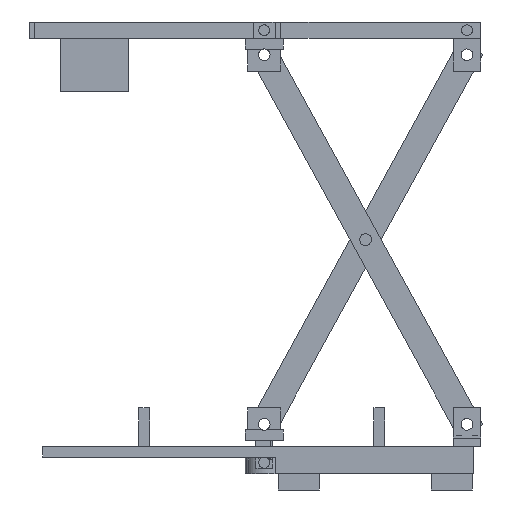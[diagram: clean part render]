
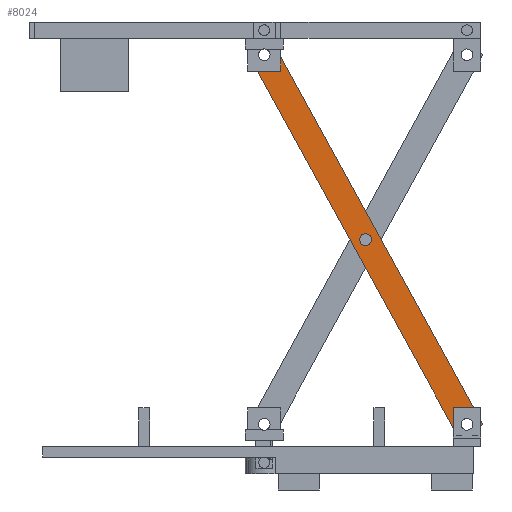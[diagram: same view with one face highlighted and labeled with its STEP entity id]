
A CAD part, front view. The second image highlights one B-rep face of the part: STEP entity #8024.
In plain terms, the highlighted planar face has unit normal (0, -1, 0).
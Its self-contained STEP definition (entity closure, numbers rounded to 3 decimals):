
#7908 = EDGE_CURVE('',#7909,#7911,#7913,.T.);
#7909 = VERTEX_POINT('',#7910);
#7910 = CARTESIAN_POINT('',(-3.,-1.5,-5.));
#7911 = VERTEX_POINT('',#7912);
#7912 = CARTESIAN_POINT('',(-3.,-1.5,5.));
#7913 = SURFACE_CURVE('',#7914,(#7918,#7930),.PCURVE_S1.);
#7914 = LINE('',#7915,#7916);
#7915 = CARTESIAN_POINT('',(-3.,-1.5,-5.));
#7916 = VECTOR('',#7917,1.);
#7917 = DIRECTION('',(0.,0.,1.));
#7918 = PCURVE('',#7919,#7924);
#7919 = PLANE('',#7920);
#7920 = AXIS2_PLACEMENT_3D('',#7921,#7922,#7923);
#7921 = CARTESIAN_POINT('',(-3.,-1.5,-5.));
#7922 = DIRECTION('',(1.,0.,-0.));
#7923 = DIRECTION('',(0.,0.,1.));
#7924 = DEFINITIONAL_REPRESENTATION('',(#7925),#7929);
#7925 = LINE('',#7926,#7927);
#7926 = CARTESIAN_POINT('',(0.,0.));
#7927 = VECTOR('',#7928,1.);
#7928 = DIRECTION('',(1.,0.));
#7929 = ( GEOMETRIC_REPRESENTATION_CONTEXT(2) 
PARAMETRIC_REPRESENTATION_CONTEXT() REPRESENTATION_CONTEXT('2D SPACE',''
  ) );
#7930 = PCURVE('',#7931,#7936);
#7931 = PLANE('',#7932);
#7932 = AXIS2_PLACEMENT_3D('',#7933,#7934,#7935);
#7933 = CARTESIAN_POINT('',(-3.,-1.5,-5.));
#7934 = DIRECTION('',(-0.,1.,0.));
#7935 = DIRECTION('',(0.,0.,1.));
#7936 = DEFINITIONAL_REPRESENTATION('',(#7937),#7941);
#7937 = LINE('',#7938,#7939);
#7938 = CARTESIAN_POINT('',(0.,0.));
#7939 = VECTOR('',#7940,1.);
#7940 = DIRECTION('',(1.,0.));
#7941 = ( GEOMETRIC_REPRESENTATION_CONTEXT(2) 
PARAMETRIC_REPRESENTATION_CONTEXT() REPRESENTATION_CONTEXT('2D SPACE',''
  ) );
#7959 = PLANE('',#7960);
#7960 = AXIS2_PLACEMENT_3D('',#7961,#7962,#7963);
#7961 = CARTESIAN_POINT('',(-3.,-1.5,-5.));
#7962 = DIRECTION('',(0.,0.,1.));
#7963 = DIRECTION('',(1.,0.,-0.));
#8013 = PLANE('',#8014);
#8014 = AXIS2_PLACEMENT_3D('',#8015,#8016,#8017);
#8015 = CARTESIAN_POINT('',(-3.,-1.5,5.));
#8016 = DIRECTION('',(0.,0.,1.));
#8017 = DIRECTION('',(1.,0.,-0.));
#8024 = ADVANCED_FACE('',(#8025,#8100,#8135,#8170),#7931,.F.);
#8025 = FACE_BOUND('',#8026,.F.);
#8026 = EDGE_LOOP('',(#8027,#8050,#8051,#8074));
#8027 = ORIENTED_EDGE('',*,*,#8028,.F.);
#8028 = EDGE_CURVE('',#7909,#8029,#8031,.T.);
#8029 = VERTEX_POINT('',#8030);
#8030 = CARTESIAN_POINT('',(157.,-1.5,-5.));
#8031 = SURFACE_CURVE('',#8032,(#8036,#8043),.PCURVE_S1.);
#8032 = LINE('',#8033,#8034);
#8033 = CARTESIAN_POINT('',(-3.,-1.5,-5.));
#8034 = VECTOR('',#8035,1.);
#8035 = DIRECTION('',(1.,0.,-0.));
#8036 = PCURVE('',#7931,#8037);
#8037 = DEFINITIONAL_REPRESENTATION('',(#8038),#8042);
#8038 = LINE('',#8039,#8040);
#8039 = CARTESIAN_POINT('',(0.,0.));
#8040 = VECTOR('',#8041,1.);
#8041 = DIRECTION('',(0.,1.));
#8042 = ( GEOMETRIC_REPRESENTATION_CONTEXT(2) 
PARAMETRIC_REPRESENTATION_CONTEXT() REPRESENTATION_CONTEXT('2D SPACE',''
  ) );
#8043 = PCURVE('',#7959,#8044);
#8044 = DEFINITIONAL_REPRESENTATION('',(#8045),#8049);
#8045 = LINE('',#8046,#8047);
#8046 = CARTESIAN_POINT('',(0.,0.));
#8047 = VECTOR('',#8048,1.);
#8048 = DIRECTION('',(1.,0.));
#8049 = ( GEOMETRIC_REPRESENTATION_CONTEXT(2) 
PARAMETRIC_REPRESENTATION_CONTEXT() REPRESENTATION_CONTEXT('2D SPACE',''
  ) );
#8050 = ORIENTED_EDGE('',*,*,#7908,.T.);
#8051 = ORIENTED_EDGE('',*,*,#8052,.T.);
#8052 = EDGE_CURVE('',#7911,#8053,#8055,.T.);
#8053 = VERTEX_POINT('',#8054);
#8054 = CARTESIAN_POINT('',(157.,-1.5,5.));
#8055 = SURFACE_CURVE('',#8056,(#8060,#8067),.PCURVE_S1.);
#8056 = LINE('',#8057,#8058);
#8057 = CARTESIAN_POINT('',(-3.,-1.5,5.));
#8058 = VECTOR('',#8059,1.);
#8059 = DIRECTION('',(1.,0.,-0.));
#8060 = PCURVE('',#7931,#8061);
#8061 = DEFINITIONAL_REPRESENTATION('',(#8062),#8066);
#8062 = LINE('',#8063,#8064);
#8063 = CARTESIAN_POINT('',(10.,0.));
#8064 = VECTOR('',#8065,1.);
#8065 = DIRECTION('',(0.,1.));
#8066 = ( GEOMETRIC_REPRESENTATION_CONTEXT(2) 
PARAMETRIC_REPRESENTATION_CONTEXT() REPRESENTATION_CONTEXT('2D SPACE',''
  ) );
#8067 = PCURVE('',#8013,#8068);
#8068 = DEFINITIONAL_REPRESENTATION('',(#8069),#8073);
#8069 = LINE('',#8070,#8071);
#8070 = CARTESIAN_POINT('',(0.,0.));
#8071 = VECTOR('',#8072,1.);
#8072 = DIRECTION('',(1.,0.));
#8073 = ( GEOMETRIC_REPRESENTATION_CONTEXT(2) 
PARAMETRIC_REPRESENTATION_CONTEXT() REPRESENTATION_CONTEXT('2D SPACE',''
  ) );
#8074 = ORIENTED_EDGE('',*,*,#8075,.F.);
#8075 = EDGE_CURVE('',#8029,#8053,#8076,.T.);
#8076 = SURFACE_CURVE('',#8077,(#8081,#8088),.PCURVE_S1.);
#8077 = LINE('',#8078,#8079);
#8078 = CARTESIAN_POINT('',(157.,-1.5,-5.));
#8079 = VECTOR('',#8080,1.);
#8080 = DIRECTION('',(0.,0.,1.));
#8081 = PCURVE('',#7931,#8082);
#8082 = DEFINITIONAL_REPRESENTATION('',(#8083),#8087);
#8083 = LINE('',#8084,#8085);
#8084 = CARTESIAN_POINT('',(0.,160.));
#8085 = VECTOR('',#8086,1.);
#8086 = DIRECTION('',(1.,0.));
#8087 = ( GEOMETRIC_REPRESENTATION_CONTEXT(2) 
PARAMETRIC_REPRESENTATION_CONTEXT() REPRESENTATION_CONTEXT('2D SPACE',''
  ) );
#8088 = PCURVE('',#8089,#8094);
#8089 = PLANE('',#8090);
#8090 = AXIS2_PLACEMENT_3D('',#8091,#8092,#8093);
#8091 = CARTESIAN_POINT('',(157.,-1.5,-5.));
#8092 = DIRECTION('',(1.,0.,-0.));
#8093 = DIRECTION('',(0.,0.,1.));
#8094 = DEFINITIONAL_REPRESENTATION('',(#8095),#8099);
#8095 = LINE('',#8096,#8097);
#8096 = CARTESIAN_POINT('',(0.,0.));
#8097 = VECTOR('',#8098,1.);
#8098 = DIRECTION('',(1.,0.));
#8099 = ( GEOMETRIC_REPRESENTATION_CONTEXT(2) 
PARAMETRIC_REPRESENTATION_CONTEXT() REPRESENTATION_CONTEXT('2D SPACE',''
  ) );
#8100 = FACE_BOUND('',#8101,.F.);
#8101 = EDGE_LOOP('',(#8102));
#8102 = ORIENTED_EDGE('',*,*,#8103,.T.);
#8103 = EDGE_CURVE('',#8104,#8104,#8106,.T.);
#8104 = VERTEX_POINT('',#8105);
#8105 = CARTESIAN_POINT('',(2.15,-1.5,0.));
#8106 = SURFACE_CURVE('',#8107,(#8112,#8123),.PCURVE_S1.);
#8107 = CIRCLE('',#8108,2.15);
#8108 = AXIS2_PLACEMENT_3D('',#8109,#8110,#8111);
#8109 = CARTESIAN_POINT('',(0.,-1.5,0.));
#8110 = DIRECTION('',(0.,-1.,0.));
#8111 = DIRECTION('',(1.,0.,0.));
#8112 = PCURVE('',#7931,#8113);
#8113 = DEFINITIONAL_REPRESENTATION('',(#8114),#8122);
#8114 = ( BOUNDED_CURVE() B_SPLINE_CURVE(2,(#8115,#8116,#8117,#8118,
#8119,#8120,#8121),.UNSPECIFIED.,.T.,.F.) B_SPLINE_CURVE_WITH_KNOTS((1,2
    ,2,2,2,1),(-2.094,0.,2.094,4.189,
6.283,8.378),.UNSPECIFIED.) CURVE() 
GEOMETRIC_REPRESENTATION_ITEM() RATIONAL_B_SPLINE_CURVE((1.,0.5,1.,0.5,
1.,0.5,1.)) REPRESENTATION_ITEM('') );
#8115 = CARTESIAN_POINT('',(5.,5.15));
#8116 = CARTESIAN_POINT('',(8.724,5.15));
#8117 = CARTESIAN_POINT('',(6.862,1.925));
#8118 = CARTESIAN_POINT('',(5.,-1.3));
#8119 = CARTESIAN_POINT('',(3.138,1.925));
#8120 = CARTESIAN_POINT('',(1.276,5.15));
#8121 = CARTESIAN_POINT('',(5.,5.15));
#8122 = ( GEOMETRIC_REPRESENTATION_CONTEXT(2) 
PARAMETRIC_REPRESENTATION_CONTEXT() REPRESENTATION_CONTEXT('2D SPACE',''
  ) );
#8123 = PCURVE('',#8124,#8129);
#8124 = CYLINDRICAL_SURFACE('',#8125,2.15);
#8125 = AXIS2_PLACEMENT_3D('',#8126,#8127,#8128);
#8126 = CARTESIAN_POINT('',(0.,2.5,0.));
#8127 = DIRECTION('',(0.,-1.,0.));
#8128 = DIRECTION('',(1.,0.,0.));
#8129 = DEFINITIONAL_REPRESENTATION('',(#8130),#8134);
#8130 = LINE('',#8131,#8132);
#8131 = CARTESIAN_POINT('',(0.,4.));
#8132 = VECTOR('',#8133,1.);
#8133 = DIRECTION('',(1.,0.));
#8134 = ( GEOMETRIC_REPRESENTATION_CONTEXT(2) 
PARAMETRIC_REPRESENTATION_CONTEXT() REPRESENTATION_CONTEXT('2D SPACE',''
  ) );
#8135 = FACE_BOUND('',#8136,.F.);
#8136 = EDGE_LOOP('',(#8137));
#8137 = ORIENTED_EDGE('',*,*,#8138,.T.);
#8138 = EDGE_CURVE('',#8139,#8139,#8141,.T.);
#8139 = VERTEX_POINT('',#8140);
#8140 = CARTESIAN_POINT('',(79.15,-1.5,0.));
#8141 = SURFACE_CURVE('',#8142,(#8147,#8158),.PCURVE_S1.);
#8142 = CIRCLE('',#8143,2.15);
#8143 = AXIS2_PLACEMENT_3D('',#8144,#8145,#8146);
#8144 = CARTESIAN_POINT('',(77.,-1.5,0.));
#8145 = DIRECTION('',(0.,-1.,0.));
#8146 = DIRECTION('',(1.,0.,0.));
#8147 = PCURVE('',#7931,#8148);
#8148 = DEFINITIONAL_REPRESENTATION('',(#8149),#8157);
#8149 = ( BOUNDED_CURVE() B_SPLINE_CURVE(2,(#8150,#8151,#8152,#8153,
#8154,#8155,#8156),.UNSPECIFIED.,.T.,.F.) B_SPLINE_CURVE_WITH_KNOTS((1,2
    ,2,2,2,1),(-2.094,0.,2.094,4.189,
6.283,8.378),.UNSPECIFIED.) CURVE() 
GEOMETRIC_REPRESENTATION_ITEM() RATIONAL_B_SPLINE_CURVE((1.,0.5,1.,0.5,
1.,0.5,1.)) REPRESENTATION_ITEM('') );
#8150 = CARTESIAN_POINT('',(5.,82.15));
#8151 = CARTESIAN_POINT('',(8.724,82.15));
#8152 = CARTESIAN_POINT('',(6.862,78.925));
#8153 = CARTESIAN_POINT('',(5.,75.7));
#8154 = CARTESIAN_POINT('',(3.138,78.925));
#8155 = CARTESIAN_POINT('',(1.276,82.15));
#8156 = CARTESIAN_POINT('',(5.,82.15));
#8157 = ( GEOMETRIC_REPRESENTATION_CONTEXT(2) 
PARAMETRIC_REPRESENTATION_CONTEXT() REPRESENTATION_CONTEXT('2D SPACE',''
  ) );
#8158 = PCURVE('',#8159,#8164);
#8159 = CYLINDRICAL_SURFACE('',#8160,2.15);
#8160 = AXIS2_PLACEMENT_3D('',#8161,#8162,#8163);
#8161 = CARTESIAN_POINT('',(77.,2.5,0.));
#8162 = DIRECTION('',(0.,-1.,0.));
#8163 = DIRECTION('',(1.,0.,0.));
#8164 = DEFINITIONAL_REPRESENTATION('',(#8165),#8169);
#8165 = LINE('',#8166,#8167);
#8166 = CARTESIAN_POINT('',(0.,4.));
#8167 = VECTOR('',#8168,1.);
#8168 = DIRECTION('',(1.,0.));
#8169 = ( GEOMETRIC_REPRESENTATION_CONTEXT(2) 
PARAMETRIC_REPRESENTATION_CONTEXT() REPRESENTATION_CONTEXT('2D SPACE',''
  ) );
#8170 = FACE_BOUND('',#8171,.F.);
#8171 = EDGE_LOOP('',(#8172));
#8172 = ORIENTED_EDGE('',*,*,#8173,.T.);
#8173 = EDGE_CURVE('',#8174,#8174,#8176,.T.);
#8174 = VERTEX_POINT('',#8175);
#8175 = CARTESIAN_POINT('',(156.15,-1.5,0.));
#8176 = SURFACE_CURVE('',#8177,(#8182,#8193),.PCURVE_S1.);
#8177 = CIRCLE('',#8178,2.15);
#8178 = AXIS2_PLACEMENT_3D('',#8179,#8180,#8181);
#8179 = CARTESIAN_POINT('',(154.,-1.5,0.));
#8180 = DIRECTION('',(0.,-1.,0.));
#8181 = DIRECTION('',(1.,0.,0.));
#8182 = PCURVE('',#7931,#8183);
#8183 = DEFINITIONAL_REPRESENTATION('',(#8184),#8192);
#8184 = ( BOUNDED_CURVE() B_SPLINE_CURVE(2,(#8185,#8186,#8187,#8188,
#8189,#8190,#8191),.UNSPECIFIED.,.T.,.F.) B_SPLINE_CURVE_WITH_KNOTS((1,2
    ,2,2,2,1),(-2.094,0.,2.094,4.189,
6.283,8.378),.UNSPECIFIED.) CURVE() 
GEOMETRIC_REPRESENTATION_ITEM() RATIONAL_B_SPLINE_CURVE((1.,0.5,1.,0.5,
1.,0.5,1.)) REPRESENTATION_ITEM('') );
#8185 = CARTESIAN_POINT('',(5.,159.15));
#8186 = CARTESIAN_POINT('',(8.724,159.15));
#8187 = CARTESIAN_POINT('',(6.862,155.925));
#8188 = CARTESIAN_POINT('',(5.,152.7));
#8189 = CARTESIAN_POINT('',(3.138,155.925));
#8190 = CARTESIAN_POINT('',(1.276,159.15));
#8191 = CARTESIAN_POINT('',(5.,159.15));
#8192 = ( GEOMETRIC_REPRESENTATION_CONTEXT(2) 
PARAMETRIC_REPRESENTATION_CONTEXT() REPRESENTATION_CONTEXT('2D SPACE',''
  ) );
#8193 = PCURVE('',#8194,#8199);
#8194 = CYLINDRICAL_SURFACE('',#8195,2.15);
#8195 = AXIS2_PLACEMENT_3D('',#8196,#8197,#8198);
#8196 = CARTESIAN_POINT('',(154.,2.5,0.));
#8197 = DIRECTION('',(0.,-1.,0.));
#8198 = DIRECTION('',(1.,0.,0.));
#8199 = DEFINITIONAL_REPRESENTATION('',(#8200),#8204);
#8200 = LINE('',#8201,#8202);
#8201 = CARTESIAN_POINT('',(0.,4.));
#8202 = VECTOR('',#8203,1.);
#8203 = DIRECTION('',(1.,0.));
#8204 = ( GEOMETRIC_REPRESENTATION_CONTEXT(2) 
PARAMETRIC_REPRESENTATION_CONTEXT() REPRESENTATION_CONTEXT('2D SPACE',''
  ) );
